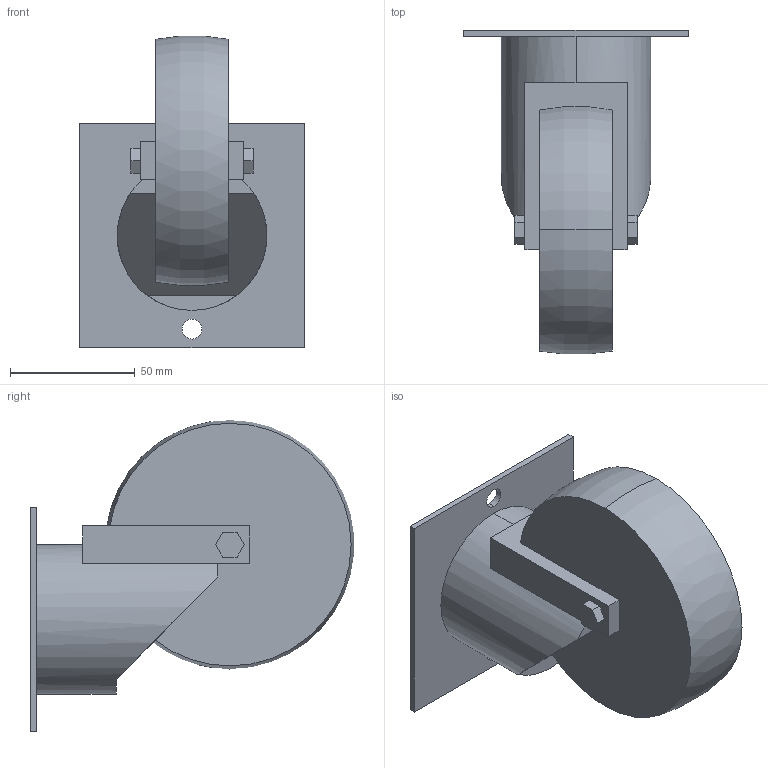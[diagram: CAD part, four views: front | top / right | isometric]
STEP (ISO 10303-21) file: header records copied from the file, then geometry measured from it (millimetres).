
FILE_DESCRIPTION (( 'STEP AP214' ), '1' );
FILE_NAME ('ST-100NB.step', '2024-02-19T02:11:08', ( 'catia' ), ( 'HP Inc.' ), 'SwSTEP 2.0', 'SolidWorks 2021', '' );
FILE_SCHEMA (( 'AUTOMOTIVE_DESIGN' ));
Length unit declared in the file: millimetre
Products named in the file (1): ST-100NB
Bounding box: 90 x 129.67 x 124.84 mm (x, y, z)
Volume: 380416.8 mm3; surface area: 47601.7 mm2
Topology: 1 solids, 1 shells, 43 faces, 114 edges, 76 vertices
Faces by surface type: plane 34, cylinder 6, torus 3
Entity records: 1386 total; most frequent: CARTESIAN_POINT 256, ORIENTED_EDGE 228, DIRECTION 222, EDGE_CURVE 114, LINE 86, VECTOR 86, VERTEX_POINT 76, AXIS2_PLACEMENT_3D 68
